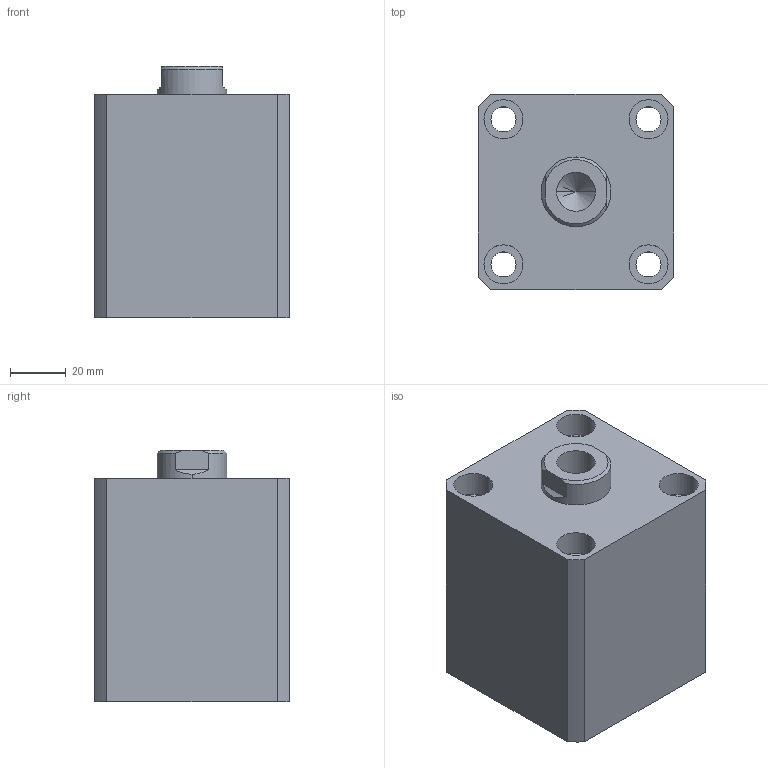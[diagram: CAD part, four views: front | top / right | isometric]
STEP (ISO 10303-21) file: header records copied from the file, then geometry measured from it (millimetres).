
FILE_DESCRIPTION (( 'STEP AP203' ), '1' );
FILE_NAME ('HTB-SDMB40-25N.STEP', '2019-10-09T01:49:21', ( '微软用户' ), ( '微软中国' ), 'SwSTEP 2.0', 'SolidWorks 2012', '' );
FILE_SCHEMA (( 'CONFIG_CONTROL_DESIGN' ));
Length unit declared in the file: millimetre
Products named in the file (3): HTB-SDMB40-25N; HTB-SDMB40-25N活塞杆; HTB-SDMB40-25掛极
Assembly tree (2 placements, depth 2):
  HTB-SDMB40-25N
    HTB-SDMB40-25掛极
    HTB-SDMB40-25N活塞杆
Bounding box: 70 x 70 x 90 mm (x, y, z)
Volume: 343327.3 mm3; surface area: 61077 mm2
Topology: 2 solids, 2 shells, 137 faces, 331 edges, 217 vertices
Faces by surface type: plane 65, cylinder 46, bspline 16, torus 6, cone 4
Entity records: 5074 total; most frequent: CARTESIAN_POINT 1580, ORIENTED_EDGE 658, DIRECTION 647, EDGE_CURVE 329, AXIS2_PLACEMENT_3D 232, VERTEX_POINT 217, VECTOR 183, LINE 183
